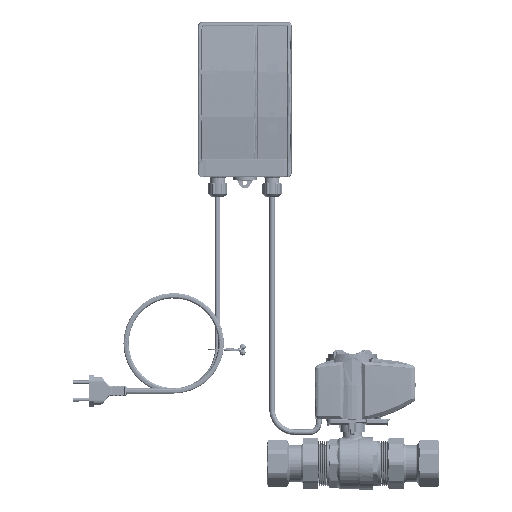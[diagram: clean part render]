
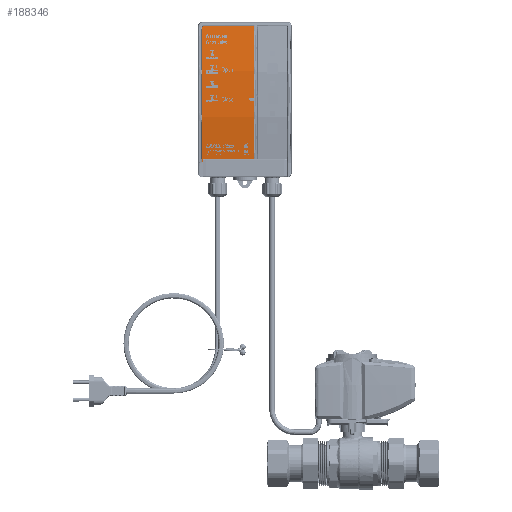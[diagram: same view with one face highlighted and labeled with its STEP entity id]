
A CAD part, front view. The second image highlights one B-rep face of the part: STEP entity #188346.
In plain terms, the highlighted cylindrical face has radius 499 mm (diameter 998 mm), a partial arc.
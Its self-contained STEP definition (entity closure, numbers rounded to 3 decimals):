
#18116 = VERTEX_POINT ( 'NONE', #381931 ) ;
#67681 = VERTEX_POINT ( 'NONE', #400756 ) ;
#73346 = EDGE_CURVE ( 'NONE', #155803, #18116, #367287, .T. ) ;
#102628 = EDGE_CURVE ( 'NONE', #155803, #67681, #273245, .T. ) ;
#126195 = CYLINDRICAL_SURFACE ( 'NONE', #379873, 499. ) ;
#133626 = EDGE_CURVE ( 'NONE', #349370, #67681, #255426, .T. ) ;
#155803 = VERTEX_POINT ( 'NONE', #378770 ) ;
#161588 = ORIENTED_EDGE ( 'NONE', *, *, #133626, .F. ) ;
#183380 = VECTOR ( 'NONE', #480777, 1000. ) ;
#188346 = ADVANCED_FACE ( 'NONE', ( #276427 ), #126195, .T. ) ;
#188972 = CARTESIAN_POINT ( 'NONE',  ( 15.99, 0., 0. ) ) ;
#189840 = VECTOR ( 'NONE', #478223, 1000. ) ;
#192302 = ORIENTED_EDGE ( 'NONE', *, *, #102628, .T. ) ;
#212973 = CARTESIAN_POINT ( 'NONE',  ( 90.497, -493.406, 0. ) ) ;
#235745 = EDGE_LOOP ( 'NONE', ( #192302, #161588, #474408, #461074 ) ) ;
#243919 = LINE ( 'NONE', #365007, #183380 ) ;
#255426 = CIRCLE ( 'NONE', #272341, 499. ) ;
#272341 = AXIS2_PLACEMENT_3D ( 'NONE', #356399, #437936, #514280 ) ;
#273245 = LINE ( 'NONE', #188972, #189840 ) ;
#276427 = FACE_OUTER_BOUND ( 'NONE', #235745, .T. ) ;
#283534 = EDGE_CURVE ( 'NONE', #18116, #349370, #243919, .T. ) ;
#290059 = DIRECTION ( 'NONE',  ( 0., -1., 0. ) ) ;
#329448 = CARTESIAN_POINT ( 'NONE',  ( 90.497, -493.406, 0. ) ) ;
#341719 = AXIS2_PLACEMENT_3D ( 'NONE', #329448, #489891, #290059 ) ;
#349370 = VERTEX_POINT ( 'NONE', #353806 ) ;
#353806 = CARTESIAN_POINT ( 'NONE',  ( 160.997, 0.589, 55. ) ) ;
#356399 = CARTESIAN_POINT ( 'NONE',  ( 90.497, -493.406, 55. ) ) ;
#365007 = CARTESIAN_POINT ( 'NONE',  ( 160.997, 0.589, 0. ) ) ;
#367287 = CIRCLE ( 'NONE', #341719, 499. ) ;
#373491 = DIRECTION ( 'NONE',  ( 0., -1., 0. ) ) ;
#378770 = CARTESIAN_POINT ( 'NONE',  ( 15.99, 0., 0. ) ) ;
#379873 = AXIS2_PLACEMENT_3D ( 'NONE', #212973, #491821, #373491 ) ;
#381931 = CARTESIAN_POINT ( 'NONE',  ( 160.997, 0.589, 0. ) ) ;
#400756 = CARTESIAN_POINT ( 'NONE',  ( 15.99, 0., 55. ) ) ;
#437936 = DIRECTION ( 'NONE',  ( 0., 0., 1. ) ) ;
#461074 = ORIENTED_EDGE ( 'NONE', *, *, #73346, .F. ) ;
#474408 = ORIENTED_EDGE ( 'NONE', *, *, #283534, .F. ) ;
#478223 = DIRECTION ( 'NONE',  ( 0., 0., 1. ) ) ;
#480777 = DIRECTION ( 'NONE',  ( 0., 0., 1. ) ) ;
#489891 = DIRECTION ( 'NONE',  ( 0., 0., -1. ) ) ;
#491821 = DIRECTION ( 'NONE',  ( 0., 0., 1. ) ) ;
#514280 = DIRECTION ( 'NONE',  ( 0., -1., 0. ) ) ;
